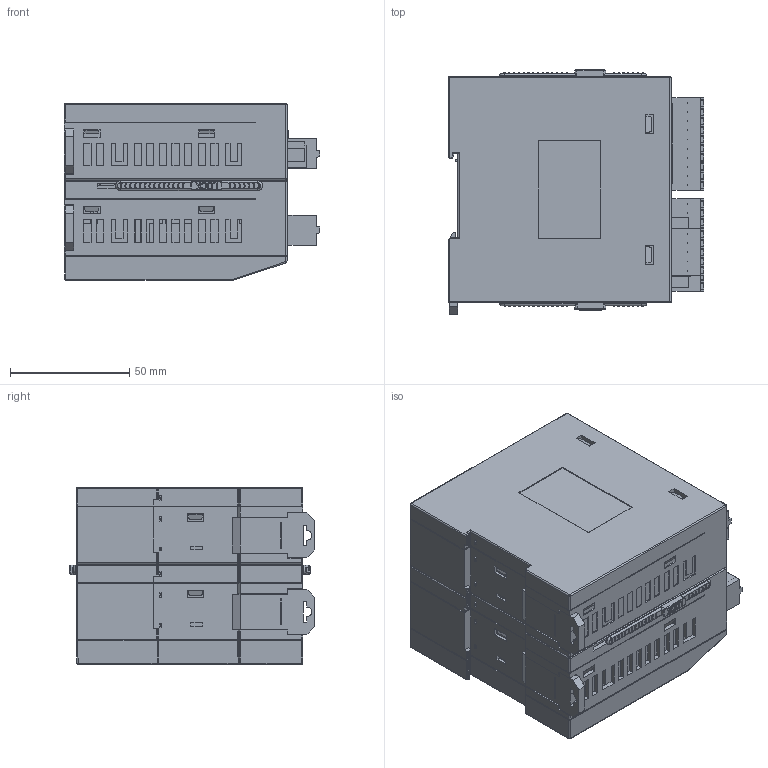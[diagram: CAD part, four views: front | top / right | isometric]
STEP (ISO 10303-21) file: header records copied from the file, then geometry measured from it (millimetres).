
FILE_DESCRIPTION(/* description */ (''),/* implementation_level */ '2;1');
FILE_NAME(/* name */ 'ZMIO300给客户3D模型.step',/* time_stamp */ '2019-09-27T09:25:34+08:00',/* author */ (''),/* organization */ (''),/* preprocessor_version */ 'ST-DEVELOPER v16',/* originating_system */ 'SIEMENS PLM Software NX 10.0',/* authorisation */ '');
FILE_SCHEMA (('AUTOMOTIVE_DESIGN { 1 0 10303 214 3 1 1 1 }'));
Products named in the file (1): 给客户3D模型
Bounding box: 106.97 x 102.88 x 74 mm (x, y, z)
Volume: 568835.5 mm3; surface area: 119490.5 mm2
Topology: 1 solids, 30 shells, 4007 faces, 10533 edges, 6603 vertices
Faces by surface type: plane 2648, cylinder 603, bspline 260, sphere 218, extrusion 178, torus 96, cone 4
Full cylindrical faces by diameter (mm): 1.5 x4, 2.5 x8, 3 x2, 3.048 x25, 3.8 x1, 4.5 x1, 5 x2
Entity records: 153035 total; most frequent: CARTESIAN_POINT 30125, ORIENTED_EDGE 20482, DIRECTION 18503, EDGE_CURVE 10241, VECTOR 7579, LINE 7401, VERTEX_POINT 6570, AXIS2_PLACEMENT_3D 5462
